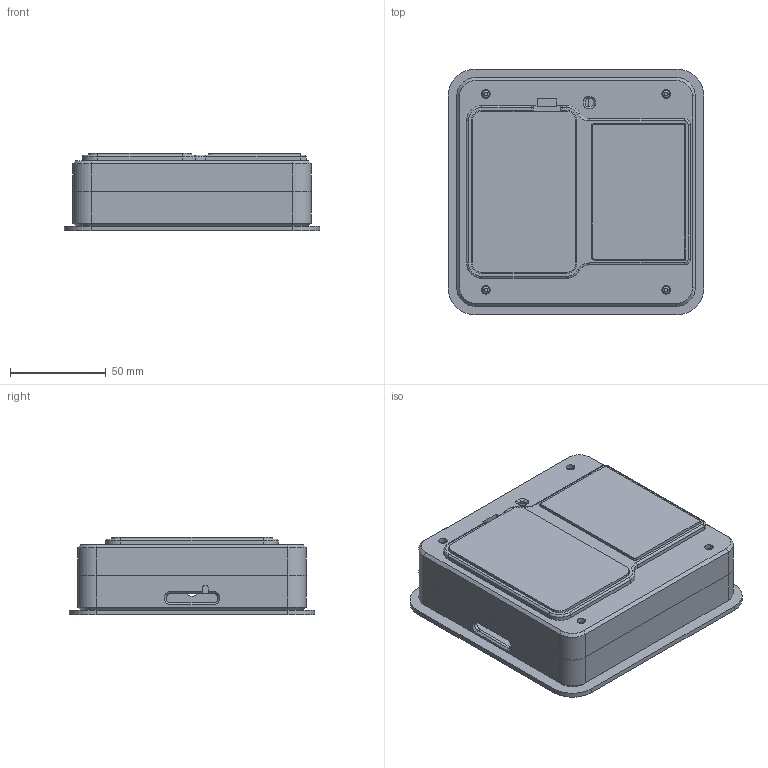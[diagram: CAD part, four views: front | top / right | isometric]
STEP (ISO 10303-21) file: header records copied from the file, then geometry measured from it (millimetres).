
FILE_DESCRIPTION(/* description */ (''),/* implementation_level */ '2;1');
FILE_NAME(/* name */ '3ncryp2p_v2.step',/* time_stamp */ '2026-05-08T12:37:11+03:00',/* author */ (''),/* organization */ (''),/* preprocessor_version */ 'ST-DEVELOPER v20.1',/* originating_system */ 'Autodesk Translation Framework v15.8.0.0',/* authorisation */ '');
FILE_SCHEMA (('AUTOMOTIVE_DESIGN { 1 0 10303 214 3 1 1 }'));
Length unit declared in the file: millimetre
Products named in the file (1): 2026-03-27-16-19-31-576
Bounding box: 133.11 x 128 x 40.5 mm (x, y, z)
Volume: 222802.1 mm3; surface area: 175905.4 mm2
Topology: 14 solids, 14 shells, 1059 faces, 2843 edges, 1842 vertices
Faces by surface type: plane 744, cylinder 162, bspline 107, cone 32, torus 12, sphere 2
Full cylindrical faces by diameter (mm): 1.1 x2, 1.5 x8, 1.6 x2, 2.1 x2, 3.22 x4, 3.8 x4, 3.9 x4, 4.5 x8, 6.6 x1
Entity records: 34142 total; most frequent: CARTESIAN_POINT 7620, ORIENTED_EDGE 5686, DIRECTION 4917, EDGE_CURVE 2843, LINE 2243, VECTOR 2243, VERTEX_POINT 1842, AXIS2_PLACEMENT_3D 1337
